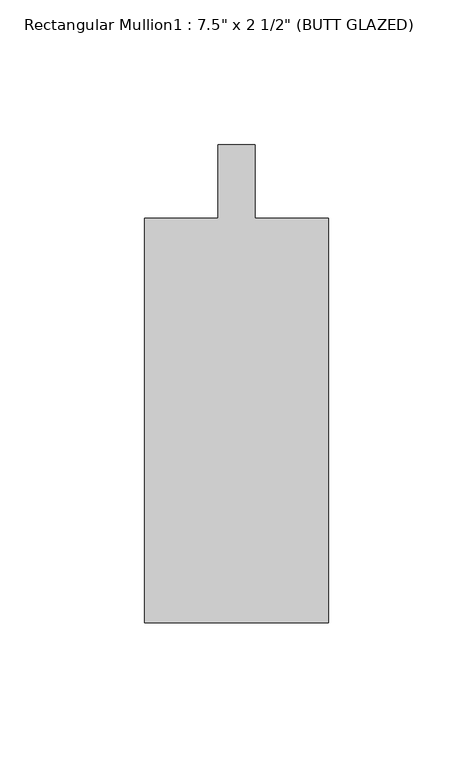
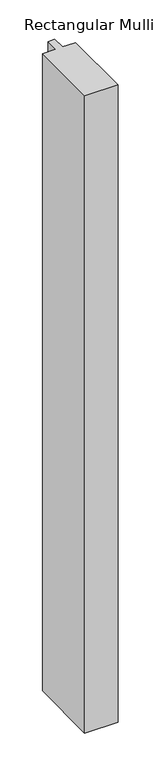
"""IFC4 building model written with IfcOpenShell, lengths in millimetres: member geometry."""

from ifc_helpers import new_model, si_unit, frame, origin, place, context, project, spatial, polyline, outline, extrude, source, transform, mapped, element, save


def member_21a60fd6(model_context):
    return source(origin(), model_context, "Body", "SweptSolid", [
        extrude(outline(polyline([(31.75, -165.1), (-31.75, -165.1), (-31.75, -25.4), (-6.35, -25.4), (-6.35, 0.0), (6.35, 0.0), (6.35, -25.4), (31.75, -25.4), (31.75, -165.1)])), frame((0.0, 0.0, -1282.7), z_axis=(0.0, 0.0, 1.0), x_axis=(1.0, 0.0, 0.0)), (0.0, 0.0, 1.0), 1282.7),
    ])


if __name__ == "__main__":
    model = new_model("IFC4")
    model_context = context("Model", 3, world=origin())
    ifc_project = project(units=[si_unit("LENGTHUNIT", "METRE", prefix="MILLI")], contexts=[model_context])
    site = spatial("IfcSite", under=ifc_project)
    building = spatial("IfcBuilding", under=site)
    placement = place(None, origin())
    member_shape = member_21a60fd6(model_context)
    element("IfcMember", 1, ObjectType="Rectangular Mullion1 : 7.5\" x 2 1/2\" (BUTT GLAZED)", at=placement, inside=building, context=model_context, shape_type="MappedRepresentation", body=[
        mapped(member_shape, transform((0.0, 0.0, 0.0), x_axis=(1.0, 0.0, 0.0), y_axis=(0.0, 1.0, 0.0), z_axis=(0.0, 0.0, 1.0))),
    ])
    save(model, "model.ifc")
